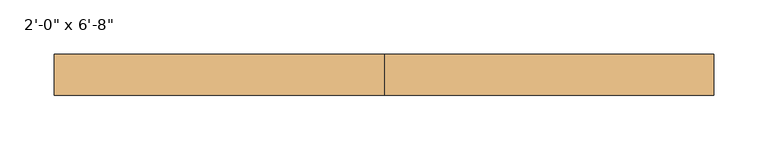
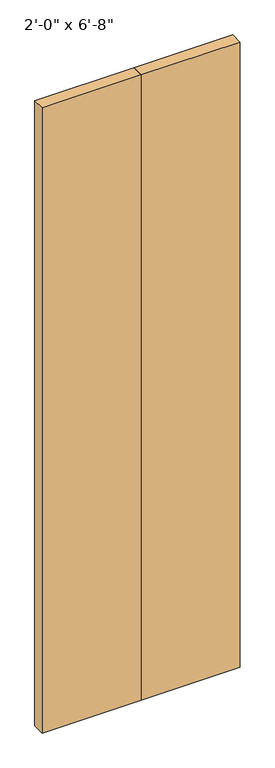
"""IFC4 building model written with IfcOpenShell, lengths in millimetres: door geometry."""

import ifcopenshell
import ifcopenshell.guid

model = None  # the IFC model being written
_history = None  # IfcOwnerHistory: only IFC2X3 demands one
_inside = {}  # id of a spatial element -> (the spatial element, [elements in it])
_under = {}  # id of a project, library or spatial element -> (it, [spatial elements below it])
_declared = {}  # id of a project -> (the project, [libraries it declares])
_typed = {}  # id of a type object -> (the type object, [elements of that type])
_made_of = {}  # id of a material, layer set ... -> (it, [elements and type objects made of it])


def new_model(schema):
    """Start an empty IFC model of exactly this schema.

    Asked for "IFC4X3", IfcOpenShell would pick the latest addendum, in which some entities
    have other attributes; the version numbers below select the first issue.
    IFC2X3 requires an IfcOwnerHistory on every rooted entity: one is made here for all.
    """
    global model, _history
    if schema == "IFC4X3":
        model = ifcopenshell.file(schema_version=(4, 3, 0, 0))
    else:
        model = ifcopenshell.file(schema=schema)
    _inside.clear()
    _under.clear()
    _declared.clear()
    _typed.clear()
    _made_of.clear()
    _history = None
    if model.schema == "IFC2X3":
        org = make("IfcOrganization", Name="unknown")
        user = make(
            "IfcPersonAndOrganization",
            ThePerson=make("IfcPerson", FamilyName="unknown"),
            TheOrganization=org,
        )
        app = make(
            "IfcApplication",
            ApplicationDeveloper=org,
            Version="unknown",
            ApplicationFullName="unknown",
            ApplicationIdentifier="unknown",
        )
        _history = make(
            "IfcOwnerHistory",
            OwningUser=user,
            OwningApplication=app,
            ChangeAction="ADDED",
            CreationDate=0,
        )
    return model


def make(cls, **values):
    """One entity of the class cls with the attributes given. An attribute that is None is left unset."""
    return model.create_entity(
        cls, **{name: value for name, value in values.items() if value is not None}
    )


def rooted(cls, **values):
    """An entity with a GlobalId (a new one), such as an element, a storey or a relation."""
    return make(cls, GlobalId=ifcopenshell.guid.new(), OwnerHistory=_history, **values)


def si_unit(unit_type, name, prefix=None):
    """IfcSIUnit, for example si_unit("LENGTHUNIT", "METRE", prefix="MILLI")."""
    return make("IfcSIUnit", UnitType=unit_type, Prefix=prefix, Name=name)


def assignment(units):
    """IfcUnitAssignment: the units of a project."""
    return None if units is None else make("IfcUnitAssignment", Units=units)


def point(xyz):
    """IfcCartesianPoint."""
    return None if xyz is None else make("IfcCartesianPoint", Coordinates=xyz)


def direction(xyz):
    """IfcDirection."""
    return None if xyz is None else make("IfcDirection", DirectionRatios=xyz)


def frame(location, z_axis=None, x_axis=None):
    """IfcAxis2Placement3D, a coordinate frame: its origin and axes. An axis left out is left unset."""
    return make(
        "IfcAxis2Placement3D",
        Location=point(location),
        Axis=direction(z_axis),
        RefDirection=direction(x_axis),
    )


def origin():
    """The frame at (0, 0, 0) with its axes left unset."""
    return frame((0.0, 0.0, 0.0))


def origin_with_axes():
    """The frame at (0, 0, 0) with the z axis (0, 0, 1) and the x axis (1, 0, 0) written out."""
    return frame((0.0, 0.0, 0.0), z_axis=(0.0, 0.0, 1.0), x_axis=(1.0, 0.0, 0.0))


def place(relative_to, where):
    """IfcLocalPlacement: puts the frame where relative to a parent placement (None: the world)."""
    return make(
        "IfcLocalPlacement", PlacementRelTo=relative_to, RelativePlacement=where
    )


def context(
    kind, dimensions, precision=None, world=None, true_north=None, identifier=None
):
    """IfcGeometricRepresentationContext, for example the 3D "Model" context."""
    return make(
        "IfcGeometricRepresentationContext",
        ContextIdentifier=identifier,
        ContextType=kind,
        CoordinateSpaceDimension=dimensions,
        Precision=precision,
        WorldCoordinateSystem=world,
        TrueNorth=true_north,
    )


def project(units=None, contexts=None):
    """IfcProject with its units and contexts."""
    return rooted(
        "IfcProject",
        Name="project",
        RepresentationContexts=contexts,
        UnitsInContext=assignment(units),
    )


def spatial(cls, under=None, at=None, **own):
    """A site, building, storey or space (cls), placed at a placement, below another one or the project."""
    s = rooted(cls, ObjectPlacement=at, **own)
    if under is not None:
        _under.setdefault(under.id(), (under, []))[1].append(s)
    return s


def polyline(points):
    """IfcPolyline through the points."""
    return make("IfcPolyline", Points=[point(p) for p in points])


def outline(outer, holes=None, kind="AREA"):
    """IfcArbitraryClosedProfileDef: a profile drawn as a closed curve; with holes, ...WithVoids."""
    if holes is None:
        return make("IfcArbitraryClosedProfileDef", ProfileType=kind, OuterCurve=outer)
    return make(
        "IfcArbitraryProfileDefWithVoids",
        ProfileType=kind,
        OuterCurve=outer,
        InnerCurves=holes,
    )


def extrude(swept, where, along, depth):
    """IfcExtrudedAreaSolid: the profile swept, set in the frame where, extruded along a direction by depth."""
    return make(
        "IfcExtrudedAreaSolid",
        SweptArea=swept,
        Position=where,
        ExtrudedDirection=direction(along),
        Depth=depth,
    )


def shape(context_of_items, identifier, shape_type, items):
    """IfcShapeRepresentation: the items that make up one representation, for example the "Body"."""
    return make(
        "IfcShapeRepresentation",
        ContextOfItems=context_of_items,
        RepresentationIdentifier=identifier,
        RepresentationType=shape_type,
        Items=items,
    )


def source(mapping_origin, context_of_items, identifier, shape_type, items):
    """IfcRepresentationMap: a shape defined once, which mapped items show again and again."""
    return make(
        "IfcRepresentationMap",
        MappingOrigin=mapping_origin,
        MappedRepresentation=shape(context_of_items, identifier, shape_type, items),
    )


def transform(
    local_origin,
    x_axis=None,
    y_axis=None,
    z_axis=None,
    scale=None,
    scale2=None,
    scale3=None,
    uniform=True,
):
    """IfcCartesianTransformationOperator3D, or its non-uniform kind. x_axis, y_axis, z_axis: its Axis1, 2, 3."""
    if uniform:
        return make(
            "IfcCartesianTransformationOperator3D",
            Axis1=direction(x_axis),
            Axis2=direction(y_axis),
            LocalOrigin=point(local_origin),
            Scale=scale,
            Axis3=direction(z_axis),
        )
    return make(
        "IfcCartesianTransformationOperator3DnonUniform",
        Axis1=direction(x_axis),
        Axis2=direction(y_axis),
        LocalOrigin=point(local_origin),
        Scale=scale,
        Axis3=direction(z_axis),
        Scale2=scale2,
        Scale3=scale3,
    )


def mapped(mapping_source, mapping_target):
    """IfcMappedItem: shows the shape of a source again, moved by a transform."""
    return make(
        "IfcMappedItem", MappingSource=mapping_source, MappingTarget=mapping_target
    )


def made_of(thing, what):
    """Note that an element or type object is made of a material, layer set ...; save() writes the relation."""
    if what is not None:
        _made_of.setdefault(what.id(), (what, []))[1].append(thing)
    return thing


def element(
    cls,
    number,
    at=None,
    inside=None,
    cuts=None,
    type_object=None,
    material=None,
    context=None,
    identifier="Body",
    shape_type=None,
    held_by="IfcProductDefinitionShape",
    body=None,
    shapes=None,
    **own,
):
    """One element of the class cls, such as IfcWall. Its Tag is "e" and its number.

    at: its placement. inside: the storey or other place that contains it. cuts: it is an
    opening in that element (IfcRelVoidsElement). A single representation is given by context,
    identifier, shape_type and body (its items); several are given by shapes. held_by: the class
    of the entity that holds the representations. save() writes the other relations.
    """
    e = rooted(cls, Tag="e%d" % number, ObjectPlacement=at, **own)
    if body is not None:
        shapes = [shape(context, identifier, shape_type, body)]
    if shapes is not None:
        e.Representation = make(held_by, Representations=shapes)
    if inside is not None:
        _inside.setdefault(inside.id(), (inside, []))[1].append(e)
    if cuts is not None:
        rooted(
            "IfcRelVoidsElement", RelatingBuildingElement=cuts, RelatedOpeningElement=e
        )
    if type_object is not None:
        _typed.setdefault(type_object.id(), (type_object, []))[1].append(e)
    return made_of(e, material)


def aggregate(whole, parts):
    """IfcRelAggregates: a whole, such as a stair, and the parts it consists of."""
    return rooted("IfcRelAggregates", RelatingObject=whole, RelatedObjects=parts)


def save(model, path):
    """Write the relations noted so far, then the file.

    IfcRelAggregates (storeys below a building ...), IfcRelContainedInSpatialStructure (elements
    in a storey), IfcRelDefinesByType, IfcRelAssociatesMaterial and IfcRelDeclares: one each for
    every whole, place, type object, material and project.
    """
    for whole, parts in _under.values():
        aggregate(whole, parts)
    for where, things in _inside.values():
        rooted(
            "IfcRelContainedInSpatialStructure",
            RelatedElements=things,
            RelatingStructure=where,
        )
    for kind, things in _typed.values():
        rooted("IfcRelDefinesByType", RelatedObjects=things, RelatingType=kind)
    for what, things in _made_of.values():
        rooted("IfcRelAssociatesMaterial", RelatedObjects=things, RelatingMaterial=what)
    for by, libraries in _declared.values():
        rooted("IfcRelDeclares", RelatingContext=by, RelatedDefinitions=libraries)
    model.write(path)


def door_d050fe0c(model_context):
    return source(origin(), model_context, "Body", "SweptSolid", [
        extrude(outline(polyline([(0.0, -19.05), (0.0, -57.15), (-304.8, -57.15), (-304.8, -19.05), (0.0, -19.05)])), origin_with_axes(), (0.0, 0.0, 1.0), 2032.0),
        extrude(outline(polyline([(304.8, -19.05), (304.8, -57.15), (0.0, -57.15), (0.0, -19.05), (304.8, -19.05)])), origin_with_axes(), (0.0, 0.0, 1.0), 2032.0),
    ])


if __name__ == "__main__":
    model = new_model("IFC4")
    model_context = context("Model", 3, world=origin())
    ifc_project = project(units=[si_unit("LENGTHUNIT", "METRE", prefix="MILLI")], contexts=[model_context])
    site = spatial("IfcSite", under=ifc_project)
    building = spatial("IfcBuilding", under=site)
    placement = place(None, origin())
    door_shape = door_d050fe0c(model_context)
    element("IfcDoor", 1, ObjectType="Planitar - Fold Door : 2'-0\" x 6'-8\"", at=placement, inside=building, context=model_context, shape_type="MappedRepresentation", body=[
        mapped(door_shape, transform((0.0, 0.0, 0.0), x_axis=(1.0, 0.0, 0.0), y_axis=(0.0, 1.0, 0.0), z_axis=(0.0, 0.0, 1.0))),
    ])
    save(model, "model.ifc")
